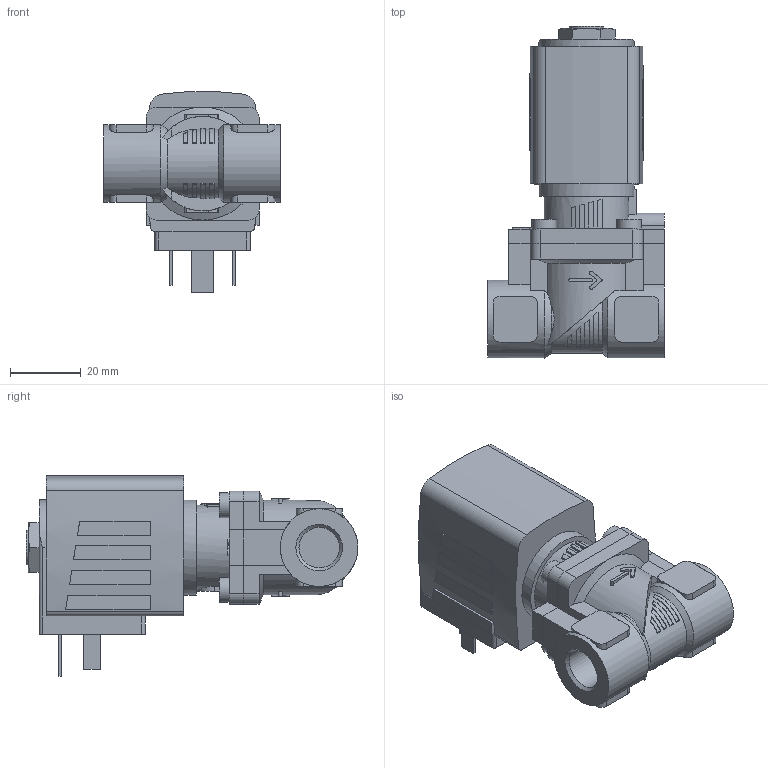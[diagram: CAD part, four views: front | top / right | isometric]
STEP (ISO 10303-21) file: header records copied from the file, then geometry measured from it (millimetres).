
FILE_DESCRIPTION(/* description */ ('STEP AP214'),/* implementation_level */ '2;1');
FILE_NAME(/* name */ '6281-348587-2_2-Way_Solenoid_Valve__Servo-assisted__General_Purpose',/* time_stamp */ '2024-05-14T16:31:06+02:00',/* author */ ('License CC BY-ND 4.0'),/* organization */ ('CADENAS'),/* preprocessor_version */ 'ST-DEVELOPER v19.3',/* originating_system */ 'PARTsolutions',/* authorisation */ ' ');
FILE_SCHEMA (('AUTOMOTIVE_DESIGN {1 0 10303 214 3 1 1}'));
Length unit declared in the file: millimetre
Products named in the file (4): 6281-348587-2/2-Way Solenoid Valve, Servo-assisted, General Purpose; 5281ev100MS2/2-Wege-Magnetventil mit Servomembran-Deckel   ; 6213-10G1/4MS-Gehaeuse-; AC10ex-5NA38-Plan-Coil
Assembly tree (3 placements, depth 2):
  6281-348587-2/2-Way Solenoid Valve, Servo-assisted, General Purpose
    5281ev100MS2/2-Wege-Magnetventil mit Servomembran-Deckel   
    6213-10G1/4MS-Gehaeuse-
    AC10ex-5NA38-Plan-Coil
Bounding box: 50 x 94 x 56.91 mm (x, y, z)
Volume: 92800.2 mm3; surface area: 21870.2 mm2
Topology: 3 solids, 3 shells, 324 faces, 826 edges, 546 vertices
Faces by surface type: plane 225, cylinder 86, cone 13
Full cylindrical faces by diameter (mm): 2.013 x1, 7 x4, 9.74 x1, 11.445 x2, 22 x1, 27 x1
Entity records: 11030 total; most frequent: CARTESIAN_POINT 1928, DIRECTION 1642, ORIENTED_EDGE 1612, EDGE_CURVE 806, AXIS2_PLACEMENT_3D 575, VERTEX_POINT 539, LINE 492, VECTOR 492
